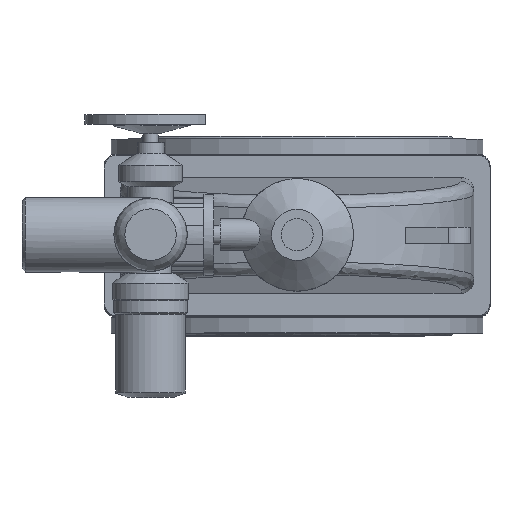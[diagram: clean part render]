
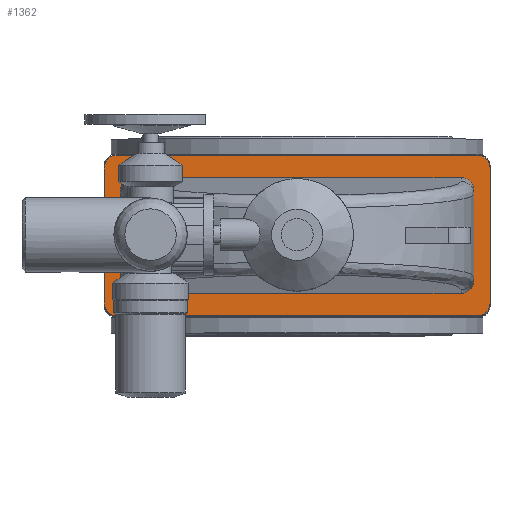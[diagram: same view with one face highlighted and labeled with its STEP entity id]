
A CAD part, top view. The second image highlights one B-rep face of the part: STEP entity #1362.
In plain terms, the highlighted planar face has unit normal (0, 0, 1).
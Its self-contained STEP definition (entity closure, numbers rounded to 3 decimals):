
#1362=ADVANCED_FACE('',(#5607,#5609),#5611,.T.);
#5607=FACE_BOUND('',#5608,.T.);
#5608=EDGE_LOOP('',(#9524,#9525,#9526,#9527,#9528,#9529,#9530,#9531));
#5609=FACE_BOUND('',#5610,.T.);
#5610=EDGE_LOOP('',(#9532,#9533,#9534,#9535,#9536,#9537,#9538,#9539));
#5611=PLANE('',#5612);
#5612=AXIS2_PLACEMENT_3D('',#5613,#5614,#5615);
#5613=CARTESIAN_POINT('',(0.,0.,636.));
#5614=DIRECTION('',(0.,-0.,1.));
#5615=DIRECTION('',(0.,1.,0.));
#9524=ORIENTED_EDGE('',*,*,#11476,.F.);
#9525=ORIENTED_EDGE('',*,*,#11477,.T.);
#9526=ORIENTED_EDGE('',*,*,#11478,.F.);
#9527=ORIENTED_EDGE('',*,*,#11479,.T.);
#9528=ORIENTED_EDGE('',*,*,#11480,.F.);
#9529=ORIENTED_EDGE('',*,*,#11481,.T.);
#9530=ORIENTED_EDGE('',*,*,#11482,.F.);
#9531=ORIENTED_EDGE('',*,*,#11483,.T.);
#9532=ORIENTED_EDGE('',*,*,#11457,.F.);
#9533=ORIENTED_EDGE('',*,*,#11456,.F.);
#9534=ORIENTED_EDGE('',*,*,#11454,.F.);
#9535=ORIENTED_EDGE('',*,*,#11442,.F.);
#9536=ORIENTED_EDGE('',*,*,#11475,.F.);
#9537=ORIENTED_EDGE('',*,*,#11473,.F.);
#9538=ORIENTED_EDGE('',*,*,#11471,.F.);
#9539=ORIENTED_EDGE('',*,*,#11459,.F.);
#11442=EDGE_CURVE('',#12753,#12751,#12755,.T.);
#11454=EDGE_CURVE('',#12751,#12772,#12774,.T.);
#11456=EDGE_CURVE('',#12772,#12775,#12777,.T.);
#11457=EDGE_CURVE('',#12775,#12778,#12779,.F.);
#11459=EDGE_CURVE('',#12778,#12781,#12782,.T.);
#11471=EDGE_CURVE('',#12781,#12800,#12801,.T.);
#11473=EDGE_CURVE('',#12800,#12803,#12804,.T.);
#11475=EDGE_CURVE('',#12803,#12753,#12806,.F.);
#11476=EDGE_CURVE('',#12807,#12808,#12809,.F.);
#11477=EDGE_CURVE('',#12807,#12810,#12811,.T.);
#11478=EDGE_CURVE('',#12812,#12810,#12813,.F.);
#11479=EDGE_CURVE('',#12812,#12814,#12815,.T.);
#11480=EDGE_CURVE('',#12816,#12814,#12817,.F.);
#11481=EDGE_CURVE('',#12816,#12818,#12819,.T.);
#11482=EDGE_CURVE('',#12820,#12818,#12821,.F.);
#11483=EDGE_CURVE('',#12820,#12808,#12822,.T.);
#12751=VERTEX_POINT('',#16848);
#12753=VERTEX_POINT('',#16852);
#12755=LINE('',#16856,#16857);
#12772=VERTEX_POINT('',#16899);
#12774=(BOUNDED_CURVE()B_SPLINE_CURVE(3,
(#16903,#16904,#16905,#16906),
.UNSPECIFIED.,.F.,.F.)B_SPLINE_CURVE_WITH_KNOTS((4,4),
(0.,1.),
.UNSPECIFIED.)CURVE()GEOMETRIC_REPRESENTATION_ITEM()RATIONAL_B_SPLINE_CURVE((1.,
0.805,0.805,1.))REPRESENTATION_ITEM(''));
#12775=VERTEX_POINT('',#16907);
#12777=LINE('',#16911,#16912);
#12778=VERTEX_POINT('',#16914);
#12779=(BOUNDED_CURVE()B_SPLINE_CURVE(3,
(#16915,#16916,#16917,#16918),
.UNSPECIFIED.,.F.,.F.)B_SPLINE_CURVE_WITH_KNOTS((4,4),
(0.,1.),
.UNSPECIFIED.)CURVE()GEOMETRIC_REPRESENTATION_ITEM()RATIONAL_B_SPLINE_CURVE((1.,
0.805,0.805,1.))REPRESENTATION_ITEM(''));
#12781=VERTEX_POINT('',#16922);
#12782=LINE('',#16923,#16924);
#12800=VERTEX_POINT('',#16969);
#12801=(BOUNDED_CURVE()B_SPLINE_CURVE(3,
(#16970,#16971,#16972,#16973),
.UNSPECIFIED.,.F.,.F.)B_SPLINE_CURVE_WITH_KNOTS((4,4),
(0.,1.),
.UNSPECIFIED.)CURVE()GEOMETRIC_REPRESENTATION_ITEM()RATIONAL_B_SPLINE_CURVE((1.,
0.805,0.805,1.))REPRESENTATION_ITEM(''));
#12803=VERTEX_POINT('',#16977);
#12804=LINE('',#16978,#16979);
#12806=(BOUNDED_CURVE()B_SPLINE_CURVE(3,
(#16984,#16985,#16986,#16987),
.UNSPECIFIED.,.F.,.F.)B_SPLINE_CURVE_WITH_KNOTS((4,4),
(0.,1.),
.UNSPECIFIED.)CURVE()GEOMETRIC_REPRESENTATION_ITEM()RATIONAL_B_SPLINE_CURVE((1.,
0.805,0.805,1.))REPRESENTATION_ITEM(''));
#12807=VERTEX_POINT('',#16988);
#12808=VERTEX_POINT('',#16989);
#12809=CIRCLE('',#16990,20.);
#12810=VERTEX_POINT('',#16994);
#12811=LINE('',#16995,#16996);
#12812=VERTEX_POINT('',#16998);
#12813=CIRCLE('',#16999,20.);
#12814=VERTEX_POINT('',#17003);
#12815=LINE('',#17004,#17005);
#12816=VERTEX_POINT('',#17007);
#12817=CIRCLE('',#17008,20.);
#12818=VERTEX_POINT('',#17012);
#12819=LINE('',#17013,#17014);
#12820=VERTEX_POINT('',#17016);
#12821=CIRCLE('',#17017,20.);
#12822=LINE('',#17021,#17022);
#16848=CARTESIAN_POINT('',(-275.,-69.924,636.));
#16852=CARTESIAN_POINT('',(-275.,69.924,636.));
#16856=CARTESIAN_POINT('',(-275.,69.924,636.));
#16857=VECTOR('',#16858,1.);
#16858=DIRECTION('',(0.,-1.,0.));
#16899=CARTESIAN_POINT('',(-255.,-90.,636.));
#16903=CARTESIAN_POINT('',(-275.,-69.924,636.));
#16904=CARTESIAN_POINT('',(-275.,-81.684,636.));
#16905=CARTESIAN_POINT('',(-266.716,-90.,636.));
#16906=CARTESIAN_POINT('',(-255.,-90.,636.));
#16907=CARTESIAN_POINT('',(255.,-90.,636.));
#16911=CARTESIAN_POINT('',(-255.,-90.,636.));
#16912=VECTOR('',#16913,1.);
#16913=DIRECTION('',(1.,0.,0.));
#16914=CARTESIAN_POINT('',(275.,-69.924,636.));
#16915=CARTESIAN_POINT('',(275.,-69.924,636.));
#16916=CARTESIAN_POINT('',(275.,-81.684,636.));
#16917=CARTESIAN_POINT('',(266.716,-90.,636.));
#16918=CARTESIAN_POINT('',(255.,-90.,636.));
#16922=CARTESIAN_POINT('',(275.,69.924,636.));
#16923=CARTESIAN_POINT('',(275.,-69.924,636.));
#16924=VECTOR('',#16925,1.);
#16925=DIRECTION('',(0.,1.,0.));
#16969=CARTESIAN_POINT('',(255.,90.,636.));
#16970=CARTESIAN_POINT('',(275.,69.924,636.));
#16971=CARTESIAN_POINT('',(275.,81.684,636.));
#16972=CARTESIAN_POINT('',(266.716,90.,636.));
#16973=CARTESIAN_POINT('',(255.,90.,636.));
#16977=CARTESIAN_POINT('',(-255.,90.,636.));
#16978=CARTESIAN_POINT('',(255.,90.,636.));
#16979=VECTOR('',#16980,1.);
#16980=DIRECTION('',(-1.,0.,0.));
#16984=CARTESIAN_POINT('',(-275.,69.924,636.));
#16985=CARTESIAN_POINT('',(-275.,81.684,636.));
#16986=CARTESIAN_POINT('',(-266.716,90.,636.));
#16987=CARTESIAN_POINT('',(-255.,90.,636.));
#16988=CARTESIAN_POINT('',(-280.,-125.,636.));
#16989=CARTESIAN_POINT('',(-300.,-105.,636.));
#16990=AXIS2_PLACEMENT_3D('',#16991,#16992,#16993);
#16991=CARTESIAN_POINT('',(-280.,-105.,636.));
#16992=DIRECTION('',(0.,-0.,1.));
#16993=DIRECTION('',(-1.,0.,0.));
#16994=CARTESIAN_POINT('',(280.,-125.,636.));
#16995=CARTESIAN_POINT('',(-280.,-125.,636.));
#16996=VECTOR('',#16997,1.);
#16997=DIRECTION('',(1.,0.,0.));
#16998=CARTESIAN_POINT('',(300.,-105.,636.));
#16999=AXIS2_PLACEMENT_3D('',#17000,#17001,#17002);
#17000=CARTESIAN_POINT('',(280.,-105.,636.));
#17001=DIRECTION('',(0.,-0.,1.));
#17002=DIRECTION('',(0.,-1.,0.));
#17003=CARTESIAN_POINT('',(300.,105.,636.));
#17004=CARTESIAN_POINT('',(300.,-105.,636.));
#17005=VECTOR('',#17006,1.);
#17006=DIRECTION('',(0.,1.,0.));
#17007=CARTESIAN_POINT('',(280.,125.,636.));
#17008=AXIS2_PLACEMENT_3D('',#17009,#17010,#17011);
#17009=CARTESIAN_POINT('',(280.,105.,636.));
#17010=DIRECTION('',(0.,-0.,1.));
#17011=DIRECTION('',(1.,0.,0.));
#17012=CARTESIAN_POINT('',(-280.,125.,636.));
#17013=CARTESIAN_POINT('',(280.,125.,636.));
#17014=VECTOR('',#17015,1.);
#17015=DIRECTION('',(-1.,0.,0.));
#17016=CARTESIAN_POINT('',(-300.,105.,636.));
#17017=AXIS2_PLACEMENT_3D('',#17018,#17019,#17020);
#17018=CARTESIAN_POINT('',(-280.,105.,636.));
#17019=DIRECTION('',(0.,-0.,1.));
#17020=DIRECTION('',(0.,1.,0.));
#17021=CARTESIAN_POINT('',(-300.,105.,636.));
#17022=VECTOR('',#17023,1.);
#17023=DIRECTION('',(0.,-1.,0.));
